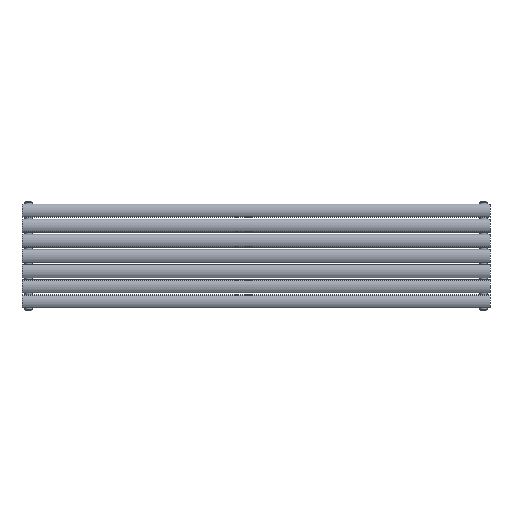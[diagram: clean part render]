
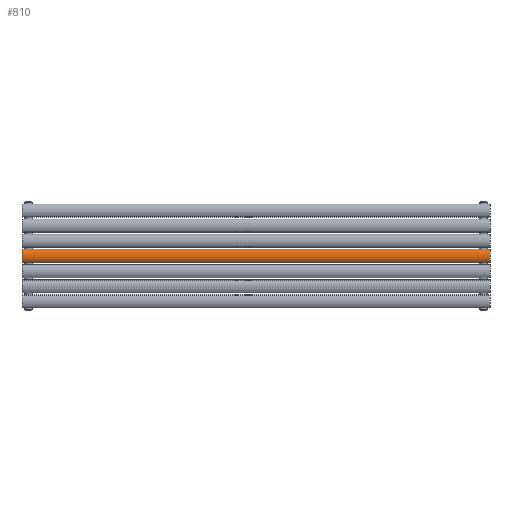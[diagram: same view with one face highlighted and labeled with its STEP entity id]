
A CAD part, top view. The second image highlights one B-rep face of the part: STEP entity #810.
In plain terms, the highlighted cylindrical face has radius 39.5 mm (diameter 79 mm), a partial arc.
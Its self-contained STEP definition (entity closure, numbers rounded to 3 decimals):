
#83=LINE('',#1936,#115);
#84=LINE('',#1940,#116);
#115=VECTOR('',#1053,10.);
#116=VECTOR('',#1056,10.);
#193=CIRCLE('',#911,39.5);
#194=CIRCLE('',#912,39.5);
#273=FACE_OUTER_BOUND('',#346,.T.);
#346=EDGE_LOOP('',(#659,#660,#661,#662));
#444=VERTEX_POINT('',#1934);
#445=VERTEX_POINT('',#1935);
#446=VERTEX_POINT('',#1937);
#447=VERTEX_POINT('',#1939);
#524=EDGE_CURVE('',#444,#445,#83,.T.);
#525=EDGE_CURVE('',#446,#444,#193,.T.);
#526=EDGE_CURVE('',#447,#446,#84,.T.);
#527=EDGE_CURVE('',#445,#447,#194,.T.);
#659=ORIENTED_EDGE('',*,*,#524,.F.);
#660=ORIENTED_EDGE('',*,*,#525,.F.);
#661=ORIENTED_EDGE('',*,*,#526,.F.);
#662=ORIENTED_EDGE('',*,*,#527,.F.);
#784=CYLINDRICAL_SURFACE('',#910,39.5);
#810=ADVANCED_FACE('',(#273),#784,.T.);
#910=AXIS2_PLACEMENT_3D('',#1933,#1051,#1052);
#911=AXIS2_PLACEMENT_3D('',#1938,#1054,#1055);
#912=AXIS2_PLACEMENT_3D('',#1941,#1057,#1058);
#1051=DIRECTION('center_axis',(0.,0.,1.));
#1052=DIRECTION('ref_axis',(-0.552,-0.834,0.));
#1053=DIRECTION('',(0.,0.,-1.));
#1054=DIRECTION('center_axis',(0.,0.,1.));
#1055=DIRECTION('ref_axis',(-0.552,-0.834,0.));
#1056=DIRECTION('',(0.,0.,1.));
#1057=DIRECTION('center_axis',(0.,0.,-1.));
#1058=DIRECTION('ref_axis',(-0.552,-0.834,0.));
#1933=CARTESIAN_POINT('Origin',(0.,14.5,0.));
#1934=CARTESIAN_POINT('',(21.816,-18.429,900.));
#1935=CARTESIAN_POINT('',(21.816,-18.429,-900.));
#1936=CARTESIAN_POINT('',(21.816,-18.429,0.));
#1937=CARTESIAN_POINT('',(-21.816,-18.429,900.));
#1938=CARTESIAN_POINT('Origin',(0.,14.5,900.));
#1939=CARTESIAN_POINT('',(-21.816,-18.429,-900.));
#1940=CARTESIAN_POINT('',(-21.816,-18.429,0.));
#1941=CARTESIAN_POINT('Origin',(0.,14.5,-900.));
